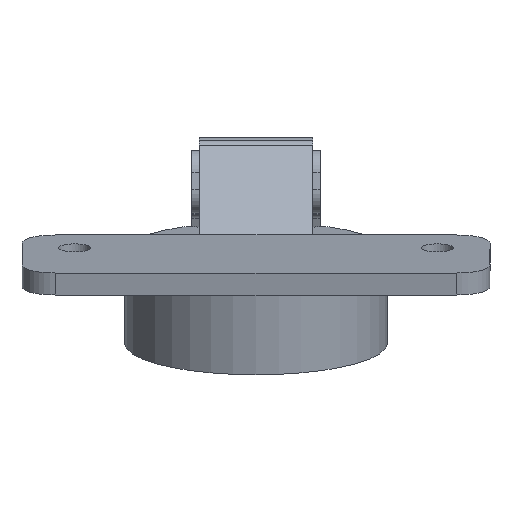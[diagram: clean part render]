
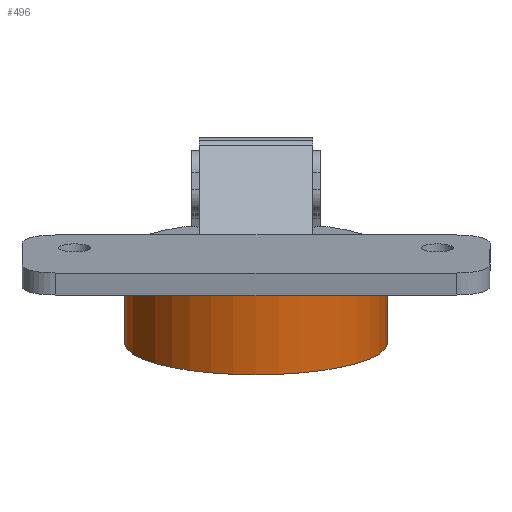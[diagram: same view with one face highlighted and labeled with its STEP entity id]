
A CAD part, top view. The second image highlights one B-rep face of the part: STEP entity #496.
In plain terms, the highlighted cylindrical face has radius 17.4 mm (diameter 34.8 mm), a partial arc.
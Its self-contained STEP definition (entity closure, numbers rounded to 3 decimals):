
#132 = LINE ( 'NONE', #2867, #197 ) ;
#194 = DIRECTION ( 'NONE',  ( 0., 0.97, 0.242 ) ) ;
#197 = VECTOR ( 'NONE', #194, 1000. ) ;
#260 = CARTESIAN_POINT ( 'NONE',  ( 17.4, 2.855, 60.695 ) ) ;
#286 = VERTEX_POINT ( 'NONE', #327 ) ;
#327 = CARTESIAN_POINT ( 'NONE',  ( 17.4, 14.014, 63.476 ) ) ;
#344 = DIRECTION ( 'NONE',  ( 0., 0.97, 0.242 ) ) ;
#401 = EDGE_CURVE ( 'NONE', #2753, #286, #560, .T. ) ;
#496 = ADVANCED_FACE ( 'NONE', ( #1689 ), #1943, .T. ) ;
#560 = CIRCLE ( 'NONE', #1834, 17.4 ) ;
#599 = CARTESIAN_POINT ( 'NONE',  ( 0., 2.758, 60.67 ) ) ;
#613 = DIRECTION ( 'NONE',  ( -1., 0., 0. ) ) ;
#666 = ORIENTED_EDGE ( 'NONE', *, *, #2780, .F. ) ;
#675 = EDGE_CURVE ( 'NONE', #1334, #286, #132, .T. ) ;
#711 = EDGE_CURVE ( 'NONE', #1529, #2753, #2449, .T. ) ;
#756 = VECTOR ( 'NONE', #2611, 1000. ) ;
#802 = CARTESIAN_POINT ( 'NONE',  ( -17.4, 2.855, 60.695 ) ) ;
#818 = DIRECTION ( 'NONE',  ( 0., 0.97, 0.242 ) ) ;
#1218 = CARTESIAN_POINT ( 'NONE',  ( 0., 2.855, 60.695 ) ) ;
#1240 = CIRCLE ( 'NONE', #2341, 17.4 ) ;
#1245 = DIRECTION ( 'NONE',  ( 0., -0.97, -0.242 ) ) ;
#1259 = CARTESIAN_POINT ( 'NONE',  ( -17.4, 14.014, 63.476 ) ) ;
#1291 = DIRECTION ( 'NONE',  ( -1., 0., 0. ) ) ;
#1334 = VERTEX_POINT ( 'NONE', #260 ) ;
#1459 = ORIENTED_EDGE ( 'NONE', *, *, #401, .F. ) ;
#1529 = VERTEX_POINT ( 'NONE', #802 ) ;
#1689 = FACE_OUTER_BOUND ( 'NONE', #2391, .T. ) ;
#1834 = AXIS2_PLACEMENT_3D ( 'NONE', #2841, #818, #1291 ) ;
#1925 = CARTESIAN_POINT ( 'NONE',  ( -17.4, 2.758, 60.67 ) ) ;
#1943 = CYLINDRICAL_SURFACE ( 'NONE', #2749, 17.4 ) ;
#2341 = AXIS2_PLACEMENT_3D ( 'NONE', #1218, #1245, #2862 ) ;
#2391 = EDGE_LOOP ( 'NONE', ( #666, #2723, #1459, #2568 ) ) ;
#2449 = LINE ( 'NONE', #1925, #756 ) ;
#2568 = ORIENTED_EDGE ( 'NONE', *, *, #711, .F. ) ;
#2611 = DIRECTION ( 'NONE',  ( 0., 0.97, 0.242 ) ) ;
#2723 = ORIENTED_EDGE ( 'NONE', *, *, #675, .T. ) ;
#2749 = AXIS2_PLACEMENT_3D ( 'NONE', #599, #344, #613 ) ;
#2753 = VERTEX_POINT ( 'NONE', #1259 ) ;
#2780 = EDGE_CURVE ( 'NONE', #1334, #1529, #1240, .T. ) ;
#2841 = CARTESIAN_POINT ( 'NONE',  ( 0., 14.014, 63.476 ) ) ;
#2862 = DIRECTION ( 'NONE',  ( 0., -0.242, 0.97 ) ) ;
#2867 = CARTESIAN_POINT ( 'NONE',  ( 17.4, 2.758, 60.67 ) ) ;
